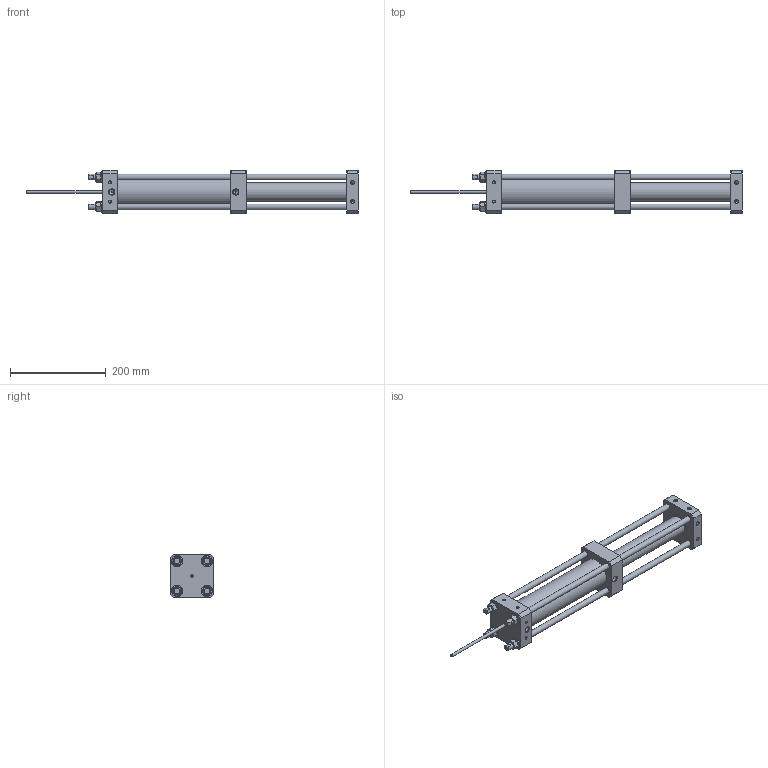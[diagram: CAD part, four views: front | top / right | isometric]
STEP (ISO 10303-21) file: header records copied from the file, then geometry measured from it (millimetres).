
FILE_DESCRIPTION(/* description */ (''),/* implementation_level */ '2;1');
FILE_NAME(/* name */ 'H32.1600.stp',/* time_stamp */ '2026-04-24T12:02:25+02:00',/* author */ ('janos'),/* organization */ (''),/* preprocessor_version */ 'ST-DEVELOPER v19.2',/* originating_system */ 'Autodesk Inventor 2024',/* authorisation */ '');
FILE_SCHEMA (('AUTOMOTIVE_DESIGN { 1 0 10303 214 3 1 1 }'));
Length unit declared in the file: millimetre
Products named in the file (1): HDÜ.BG.1600.32.1_Vereinfachen_1
Bounding box: 692 x 90 x 90 mm (x, y, z)
Volume: 1826756.5 mm3; surface area: 232403.4 mm2
Topology: 1 solids, 1 shells, 238 faces, 598 edges, 378 vertices
Faces by surface type: plane 91, cone 89, cylinder 57, torus 1
Full cylindrical faces by diameter (mm): 4.917 x8, 5 x2, 6 x1, 6.647 x8, 11.445 x2, 12 x8, 13 x4, 14.376 x1, 24 x4, 39 x1, 45 x1, 60 x1
Entity records: 7083 total; most frequent: CARTESIAN_POINT 1490, DIRECTION 1182, ORIENTED_EDGE 1162, EDGE_CURVE 581, AXIS2_PLACEMENT_3D 474, VERTEX_POINT 378, EDGE_LOOP 291, FACE_OUTER_BOUND 238
